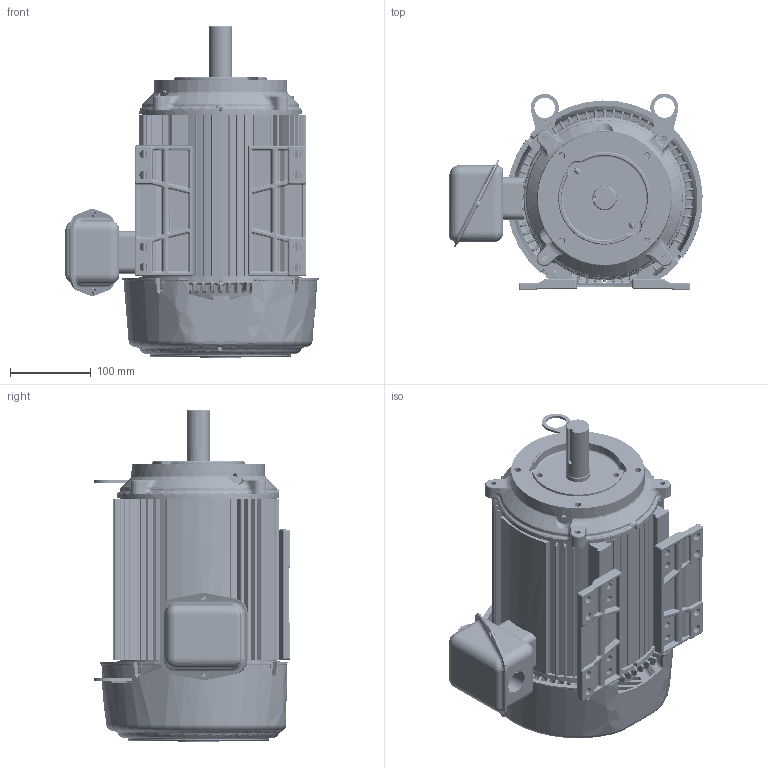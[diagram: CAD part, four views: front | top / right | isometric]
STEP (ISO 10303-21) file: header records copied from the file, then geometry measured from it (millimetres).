
FILE_DESCRIPTION((''),'2;1');
FILE_NAME('STD_CHFACE_ASM','2014-06-30T',('emd2341'),('Nidec Motor Corporation'),'PRO/ENGINEER BY PARAMETRIC TECHNOLOGY CORPORATION, 2013150','PRO/ENGINEER BY PARAMETRIC TECHNOLOGY CORPORATION, 2013150','');
FILE_SCHEMA(('CONFIG_CONTROL_DESIGN'));
Length unit declared in the file: inch
Products named in the file (17): 0390926_AF0; 0374476; 0390920; 0382071-BKT_AF0; 0298010_AF0; 0384147_ASM; 0380777-BKT_AF0; 0361252_AF0; 1001160_ASM; 0541983; 0027197; 0361286; 0362988; 0361265; 0390928; 0390417; STD_CHFACE_ASM
Assembly tree (18 placements, depth 3):
  STD_CHFACE_ASM
    0390926_AF0
    0374476  x2
    0390920
    0384147_ASM
      0382071-BKT_AF0
      0298010_AF0
    1001160_ASM
      0380777-BKT_AF0
      0361252_AF0
    0541983
    0027197
    0361286
    0362988  x2
    0361265
    0390928
    0390417
Bounding box: 313.46 x 243.34 x 411 mm (x, y, z)
Volume: 2139786.1 mm3; surface area: 1077071.8 mm2
Topology: 18 solids, 18 shells, 5498 faces, 13312 edges, 7818 vertices
Faces by surface type: bspline 2294, cylinder 1211, plane 1010, torus 448, cone 357, sphere 178
Entity records: 277377 total; most frequent: CARTESIAN_POINT 172346, ORIENTED_EDGE 25048, DIRECTION 17997, EDGE_CURVE 12524, AXIS2_PLACEMENT_3D 7596, VERTEX_POINT 7384, EDGE_LOOP 5320, FACE_OUTER_BOUND 5156
